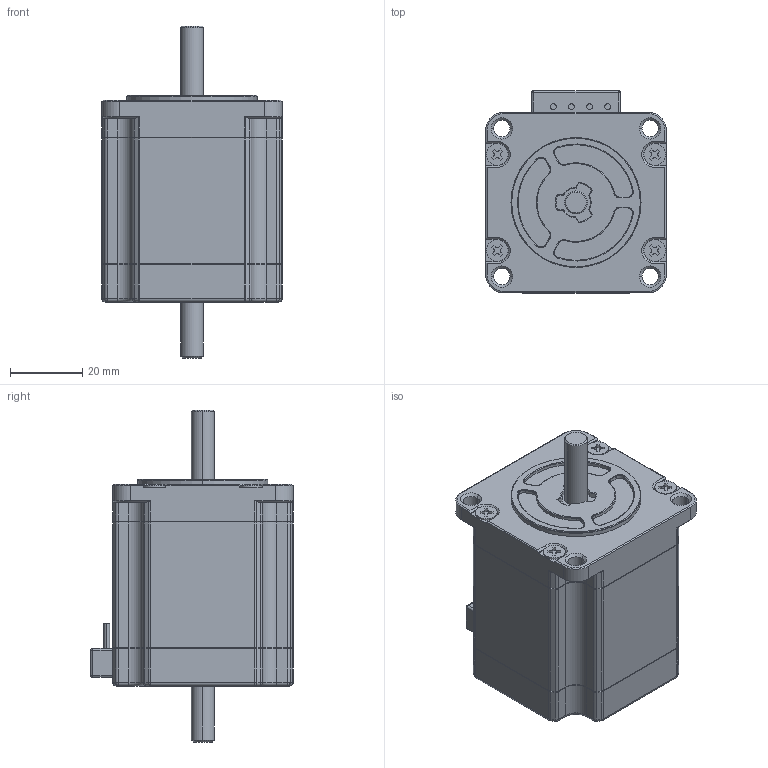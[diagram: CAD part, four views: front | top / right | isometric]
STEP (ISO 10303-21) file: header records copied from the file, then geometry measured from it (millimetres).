
FILE_DESCRIPTION (( 'STEP AP203' ), '1' );
FILE_NAME ('103H6704-5010.STEP', '2013-12-27T03:08:33', ( ' ' ), ( '' ), 'SwSTEP 2.0', 'SolidWorks 2012', '' );
FILE_SCHEMA (( 'CONFIG_CONTROL_DESIGN' ));
Length unit declared in the file: millimetre
Products named in the file (1): 103H6704-5010
Bounding box: 50 x 56 x 91.9 mm (x, y, z)
Volume: 127749.1 mm3; surface area: 17215 mm2
Topology: 1 solids, 1 shells, 605 faces, 1491 edges, 905 vertices
Faces by surface type: plane 219, cylinder 205, cone 113, torus 36, sphere 20, bspline 12
Entity records: 18162 total; most frequent: CARTESIAN_POINT 3629, DIRECTION 3180, ORIENTED_EDGE 2958, EDGE_CURVE 1479, AXIS2_PLACEMENT_3D 1195, VERTEX_POINT 905, LINE 790, VECTOR 790
